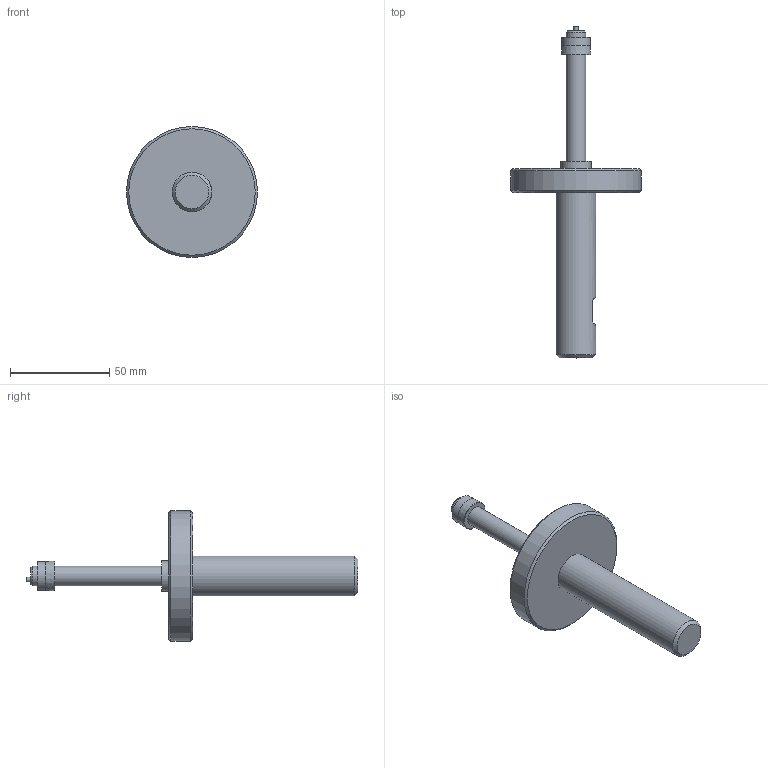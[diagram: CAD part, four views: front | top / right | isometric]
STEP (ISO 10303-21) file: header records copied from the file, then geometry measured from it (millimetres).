
FILE_DESCRIPTION (( 'STEP AP203' ), '1' );
FILE_NAME ('AF38-SIMPLE - AF38-10.00M-15.00M.step', '2025-01-20T19:57:13', ( '' ), ( '' ), 'SwSTEP 2.0', 'SolidWorks 2024', '' );
FILE_SCHEMA (( 'CONFIG_CONTROL_DESIGN' ));
Length unit declared in the file: inch
Products named in the file (1): AF38-SIMPLE - AF38-10.00M-15.00M
Bounding box: 66.04 x 167.39 x 66.04 mm (x, y, z)
Volume: 73955.3 mm3; surface area: 16816.5 mm2
Topology: 1 solids, 1 shells, 24 faces, 40 edges, 25 vertices
Faces by surface type: plane 11, cylinder 7, cone 5, torus 1
Full cylindrical faces by diameter (mm): 2.286 x1, 9.881 x2, 14.494 x1, 15.24 x1, 20 x1, 66.04 x1
Entity records: 569 total; most frequent: DIRECTION 94, CARTESIAN_POINT 81, ORIENTED_EDGE 52, AXIS2_PLACEMENT_3D 45, EDGE_LOOP 44, FACE_OUTER_BOUND 32, EDGE_CURVE 26, ADVANCED_FACE 24
